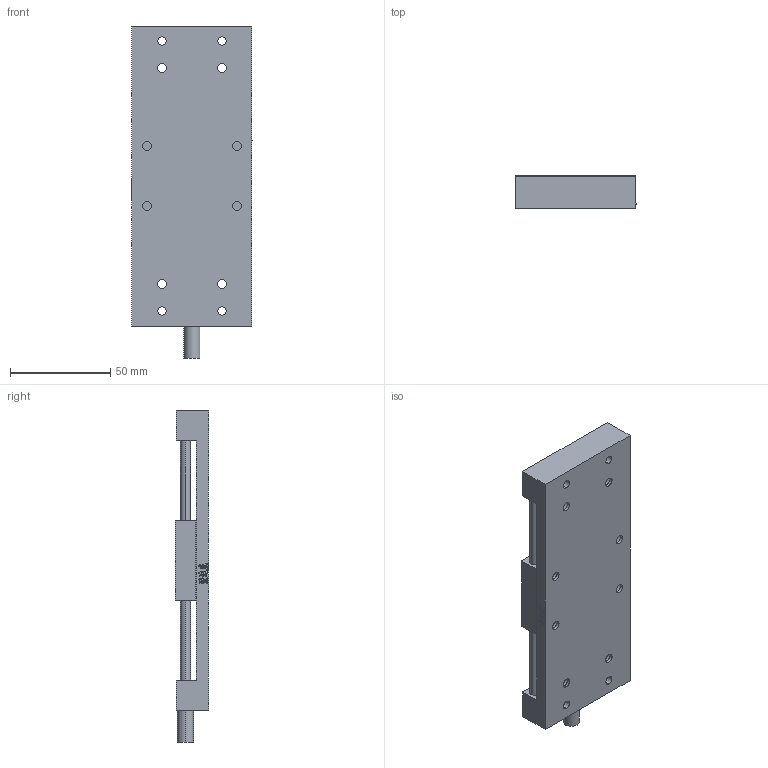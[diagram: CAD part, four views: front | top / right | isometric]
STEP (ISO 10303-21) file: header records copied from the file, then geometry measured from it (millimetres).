
FILE_DESCRIPTION (( 'STEP AP214' ), '1' );
FILE_NAME ('PT-S20.STEP', '2022-08-27T03:04:15', ( '' ), ( '' ), 'SwSTEP 2.0', 'SolidWorks 2017', '' );
FILE_SCHEMA (( 'AUTOMOTIVE_DESIGN' ));
Length unit declared in the file: millimetre
Products named in the file (3): 賑輸; PT-S20; 菁啣20
Assembly tree (2 placements, depth 2):
  PT-S20
    菁啣20
    賑輸
Bounding box: 60 x 16.5 x 166 mm (x, y, z)
Volume: 97363.1 mm3; surface area: 36862 mm2
Topology: 2 solids, 2 shells, 747 faces, 2076 edges, 1384 vertices
Faces by surface type: plane 497, bspline 168, cylinder 82
Entity records: 31216 total; most frequent: CARTESIAN_POINT 12604, ORIENTED_EDGE 4152, DIRECTION 3072, EDGE_CURVE 2076, VECTOR 1576, LINE 1576, VERTEX_POINT 1384, EDGE_LOOP 834
